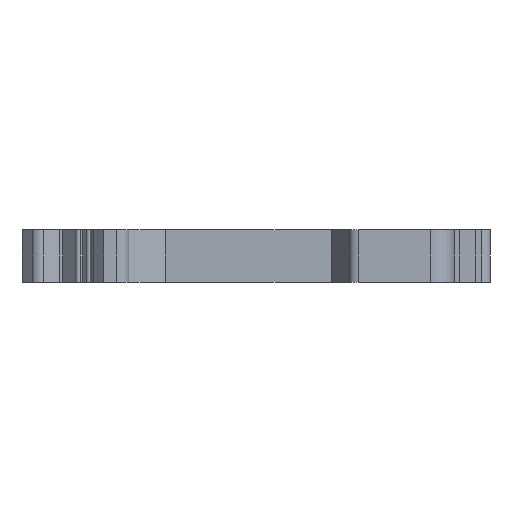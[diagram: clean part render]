
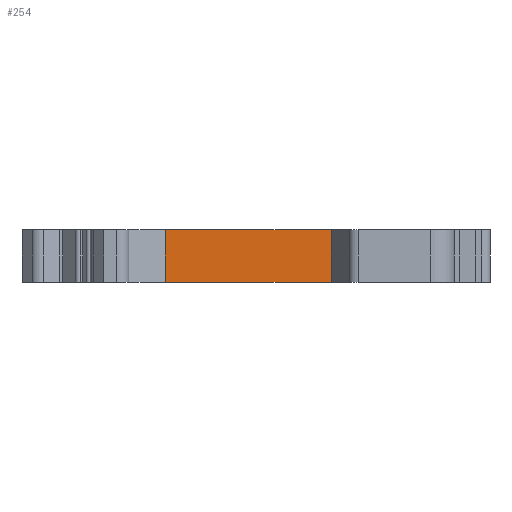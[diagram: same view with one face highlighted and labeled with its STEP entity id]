
A CAD part, left-side view. The second image highlights one B-rep face of the part: STEP entity #254.
In plain terms, the highlighted planar face has unit normal (-1, 0, 0).
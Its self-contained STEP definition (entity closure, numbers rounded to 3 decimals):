
#254=ADVANCED_FACE('',(#470),#348,.F.);
#348=PLANE('',#2777);
#470=FACE_OUTER_BOUND('',#598,.T.);
#598=EDGE_LOOP('',(#1026,#1027,#1028,#1029));
#1026=ORIENTED_EDGE('',*,*,#1935,.T.);
#1027=ORIENTED_EDGE('',*,*,#1936,.F.);
#1028=ORIENTED_EDGE('',*,*,#1937,.F.);
#1029=ORIENTED_EDGE('',*,*,#1933,.T.);
#1582=VERTEX_POINT('',#4132);
#1583=VERTEX_POINT('',#4134);
#1584=VERTEX_POINT('',#4138);
#1585=VERTEX_POINT('',#4140);
#1933=EDGE_CURVE('',#1583,#1582,#2243,.T.);
#1935=EDGE_CURVE('',#1582,#1584,#2245,.T.);
#1936=EDGE_CURVE('',#1585,#1584,#2246,.T.);
#1937=EDGE_CURVE('',#1583,#1585,#2247,.T.);
#2243=LINE('',#4133,#2541);
#2245=LINE('',#4137,#2543);
#2246=LINE('',#4139,#2544);
#2247=LINE('',#4141,#2545);
#2541=VECTOR('',#3384,1.);
#2543=VECTOR('',#3388,1.);
#2544=VECTOR('',#3389,1.);
#2545=VECTOR('',#3390,1.);
#2777=AXIS2_PLACEMENT_3D('',#4142,#3391,#3392);
#3384=DIRECTION('',(0.,0.,1.));
#3388=DIRECTION('',(0.,1.,0.));
#3389=DIRECTION('',(0.,0.,1.));
#3390=DIRECTION('',(0.,1.,0.));
#3391=DIRECTION('',(1.,0.,0.));
#3392=DIRECTION('',(0.,0.,-1.));
#4132=CARTESIAN_POINT('',(3051.636,-867.732,0.));
#4133=CARTESIAN_POINT('',(3051.636,-867.732,-5.2));
#4134=CARTESIAN_POINT('',(3051.636,-867.732,-5.2));
#4137=CARTESIAN_POINT('',(3051.636,-867.732,0.));
#4138=CARTESIAN_POINT('',(3051.636,-851.432,0.));
#4139=CARTESIAN_POINT('',(3051.636,-851.432,-5.2));
#4140=CARTESIAN_POINT('',(3051.636,-851.432,-5.2));
#4141=CARTESIAN_POINT('',(3051.636,-867.732,-5.2));
#4142=CARTESIAN_POINT('',(3051.636,-867.732,-5.2));
